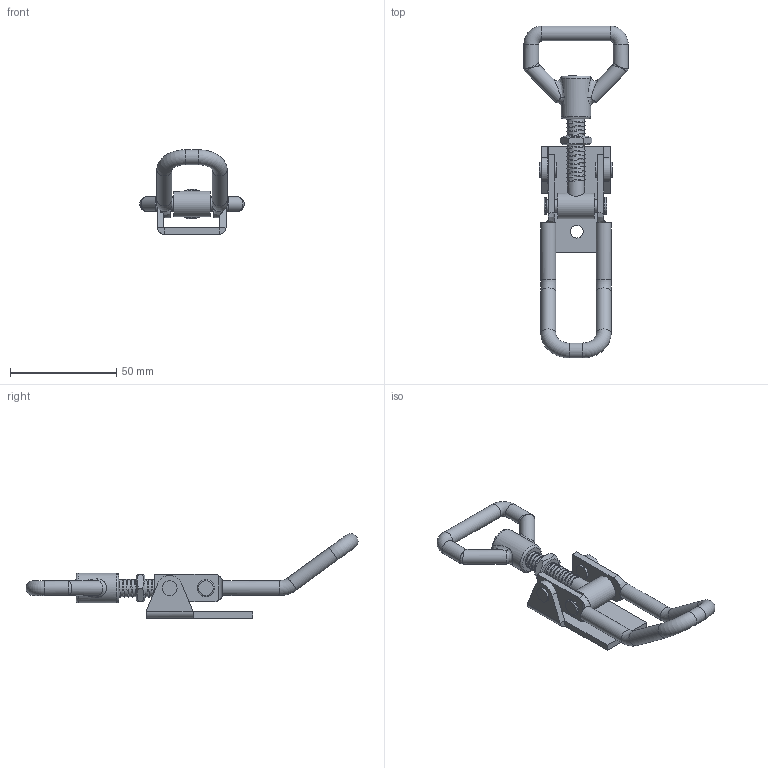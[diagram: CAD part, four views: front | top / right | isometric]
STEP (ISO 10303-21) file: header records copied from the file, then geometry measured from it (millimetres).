
FILE_DESCRIPTION(/* description */ ('Unknown'),/* implementation_level */ '2;1');
FILE_NAME(/* name */ '2004',/* time_stamp */ '2019-02-22T16:12:39+01:00',/* author */ ('Unknown'),/* organization */ ('Unknown'),/* preprocessor_version */ 'ST-DEVELOPER v16.7',/* originating_system */ 'DEX',/* authorisation */ $);
FILE_SCHEMA (('AUTOMOTIVE_DESIGN {1 0 10303 214 3 1 1}'));
Length unit declared in the file: millimetre
Products named in the file (8): 2004; ~TEIL3; ~TEIL1; ~~TEIL1; ~~~~TEIL1; ~~~TEIL1; ~~~~~TEIL1; ~SECHSKANTMUTTER - DIN 439 - M8 X 1
Assembly tree (8 placements, depth 2):
  2004
    ~TEIL3  x2
    ~TEIL1
    ~~TEIL1
    ~~~~TEIL1
    ~~~TEIL1
    ~~~~~TEIL1
    ~SECHSKANTMUTTER - DIN 439 - M8 X 1
Bounding box: 49 x 155.99 x 39.65 mm (x, y, z)
Volume: 25367.1 mm3; surface area: 17965.6 mm2
Topology: 8 solids, 8 shells, 155 faces, 396 edges, 254 vertices
Faces by surface type: cylinder 64, plane 57, bspline 18, torus 12, cone 4
Full cylindrical faces by diameter (mm): 4.5 x2, 5 x7, 6 x3, 6.917 x1, 7 x14, 8 x22, 12 x1, 14 x1
Entity records: 9714 total; most frequent: CARTESIAN_POINT 6856, ORIENTED_EDGE 534, DIRECTION 476, EDGE_CURVE 267, VERTEX_POINT 200, EDGE_LOOP 197, FACE_BOUND 197, AXIS2_PLACEMENT_3D 197
